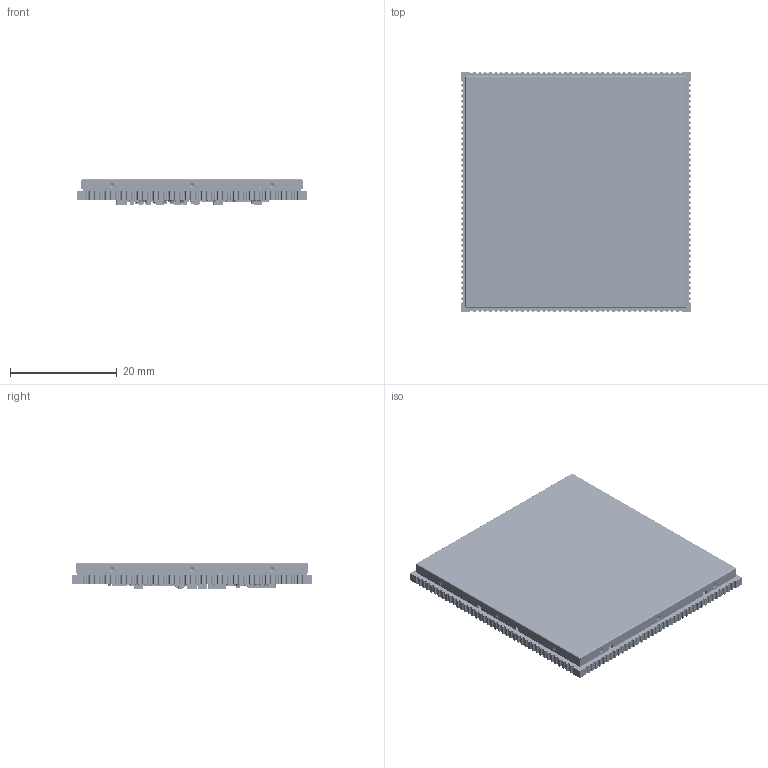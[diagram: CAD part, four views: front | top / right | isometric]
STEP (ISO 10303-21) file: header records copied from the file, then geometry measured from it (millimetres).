
FILE_DESCRIPTION((''),'2;1');
FILE_NAME('MYC-YM62X-V10_20230804_ASM','2023-08-17T11:17:08',('89233'),(''),'CREO PARAMETRIC BY PTC INC, 2023073','CREO PARAMETRIC BY PTC INC, 2023073','');
FILE_SCHEMA(('AUTOMOTIVE_DESIGN { 1 0 10303 214 1 1 1 1 }'));
Products named in the file (111): R0603-46881_6; R0603_ASM; USER_LIBRARY-SOT-23-5_PIN_SOT_S; USER_LIBRARY-SOT-23-5_BODY_SOT2; USER_LIBRARY-SOT-23-5_ASM_2_ASM_ASM; SOT23-5_ASM_2_ASM_4_ASM; SOT23-5_ASM; WPN252010UF1R0MT_1; L2X2_5_ASM; 1_11_00_1; NONE_1; 100_1; C0201-1_1_ASM_1_ASM; C0201-1_ASM_1_ASM; C0201_ASM; TPAD_020; NONE-58108_6; NONE-58109_6; NONE-58110_6; NONE-58111_6; SOD-123_ASM_6_ASM; SOD123_ASM; _1-45825_4; WRAP1-45826_4; USER_LIBRARY-0805_CAP-1-SOLID_1; PART8_ASSEM4-1-SOLID2_1_4; C0805-38575_ASM_4_ASM; C0805_ASM; PIN_TSSOP_TSSOP6_1_2_4; BODY_TSSOP-6_TSSOP5_1_2_4; USER_LIBRARY-TSSOP-5__SOT-23-5__ASM; TSSOP5_ASM_2_ASM_4_ASM; TSSOP5_ASM; PIN1-58094_6; PIN2-58095_6; CHIP-58096_6; FB0603-46885_ASM_6_ASM; FB0603-408469_ASM_6_ASM; FB0603_ASM; SOLID_2_4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
Assembly tree (420 placements, depth 7):
  MYC-YM62X-V10_20230804_ASM
    MYC-YM62X-V10_20230804_1_ASM
      MYC-YM62-PCB_ASM
        R0603_ASM  x2
          R0603-46881_6
        SOT23-5_ASM  x3
          SOT23-5_ASM_2_ASM_4_ASM
            USER_LIBRARY-SOT-23-5_ASM_2_ASM_ASM
              USER_LIBRARY-SOT-23-5_PIN_SOT_S  x5
              USER_LIBRARY-SOT-23-5_BODY_SOT2
        L2X2_5_ASM  x4
          WPN252010UF1R0MT_1
        C0201_ASM  x77
          C0201-1_ASM_1_ASM
            C0201-1_1_ASM_1_ASM
              1_11_00_1
              NONE_1
              100_1
        TPAD_020  x19
        SOD123_ASM  x2
          SOD-123_ASM_6_ASM
            NONE-58108_6
            NONE-58109_6
            NONE-58110_6
            NONE-58111_6
        C0805_ASM  x2
          C0805-38575_ASM_4_ASM
            _1-45825_4
            WRAP1-45826_4
            USER_LIBRARY-0805_CAP-1-SOLID_1
            PART8_ASSEM4-1-SOLID2_1_4
        TSSOP5_ASM  x2
          TSSOP5_ASM_2_ASM_4_ASM
            USER_LIBRARY-TSSOP-5__SOT-23-5__ASM
              PIN_TSSOP_TSSOP6_1_2_4  x5
              BODY_TSSOP-6_TSSOP5_1_2_4
        FB0603_ASM  x18
          FB0603-408469_ASM_6_ASM
            FB0603-46885_ASM_6_ASM
              PIN1-58094_6
              PIN2-58095_6
              CHIP-58096_6
        3215_ASM
          3215_ASM_2_ASM_4_ASM
            SOLID_2_4
        C0603_ASM  x15
          C0603-46898_ASM_6_ASM_2_ASM
            NONE-58131_6_2
            PART6_ASSEM3-1-SOLID2_8_2
            USER_LIBRARY-0603_CAP-1-SOLID1_
            CUT-EXTRUDE1-58134_6_2
            0603_1
        R0402_ASM  x93
          R0402-408477_ASM_6_ASM
            R0402-46893_6
        C0402_ASM  x77
          C0402_ASM_9_ASM
            C0402-1_AF0_ASM_8_ASM
              NONE-58127_AF0_6
              1_11__8
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Bounding box: 43 x 45 x 4.8 mm (x, y, z)
Volume: 4192.2 mm3; surface area: 11902 mm2
Topology: 871 solids, 875 shells, 19275 faces, 69317 edges, 60090 vertices
Faces by surface type: plane 12028, cylinder 4817, sphere 1104, torus 698, bspline 498, extrusion 130
Entity records: 312674 total; most frequent: CARTESIAN_POINT 43658, DIRECTION 40948, PRESENTATION_STYLE_ASSIGNMENT 26478, STYLED_ITEM 26084, CURVE_STYLE 24057, ORIENTED_EDGE 17673, VECTOR 15792, LINE 15727
